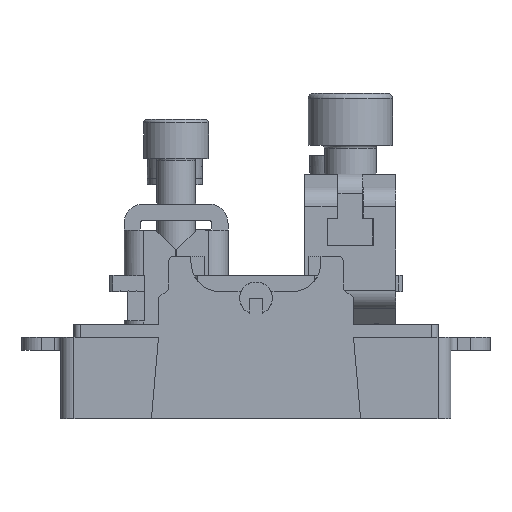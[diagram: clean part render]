
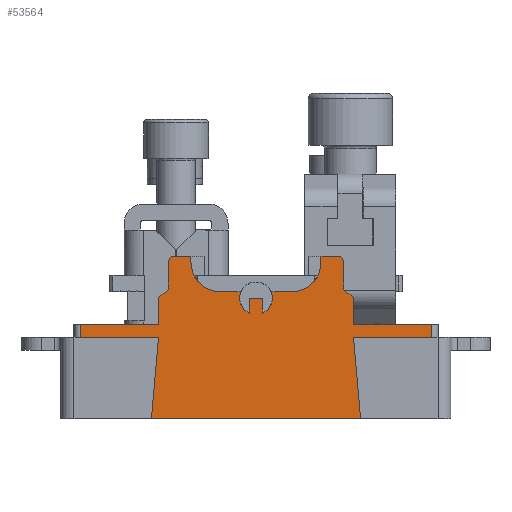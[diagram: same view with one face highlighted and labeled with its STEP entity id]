
A CAD part, front view. The second image highlights one B-rep face of the part: STEP entity #53564.
In plain terms, the highlighted planar face has unit normal (0, -1, 0).
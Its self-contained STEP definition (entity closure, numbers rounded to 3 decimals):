
#964=CIRCLE('',#55732,4.5);
#966=CIRCLE('',#55738,2.5);
#967=CIRCLE('',#55739,2.5);
#969=CIRCLE('',#55743,4.5);
#971=CIRCLE('',#55748,1.);
#972=CIRCLE('',#55751,7.5);
#976=CIRCLE('',#55765,1.);
#987=CIRCLE('',#55786,7.5);
#3449=ORIENTED_EDGE('',*,*,#14149,.F.);
#3450=ORIENTED_EDGE('',*,*,#14145,.T.);
#3451=ORIENTED_EDGE('',*,*,#14141,.F.);
#3452=ORIENTED_EDGE('',*,*,#14193,.F.);
#3453=ORIENTED_EDGE('',*,*,#14195,.T.);
#3454=ORIENTED_EDGE('',*,*,#14196,.T.);
#3455=ORIENTED_EDGE('',*,*,#14152,.T.);
#3456=ORIENTED_EDGE('',*,*,#14137,.F.);
#3457=ORIENTED_EDGE('',*,*,#14135,.F.);
#3458=ORIENTED_EDGE('',*,*,#14132,.T.);
#3459=ORIENTED_EDGE('',*,*,#14130,.T.);
#3460=ORIENTED_EDGE('',*,*,#14129,.F.);
#3461=ORIENTED_EDGE('',*,*,#14126,.T.);
#3462=ORIENTED_EDGE('',*,*,#14124,.T.);
#3463=ORIENTED_EDGE('',*,*,#14121,.T.);
#3464=ORIENTED_EDGE('',*,*,#14119,.F.);
#3465=ORIENTED_EDGE('',*,*,#14117,.F.);
#3466=ORIENTED_EDGE('',*,*,#14115,.T.);
#3467=ORIENTED_EDGE('',*,*,#14113,.F.);
#3468=ORIENTED_EDGE('',*,*,#13360,.T.);
#3469=ORIENTED_EDGE('',*,*,#14110,.T.);
#3470=ORIENTED_EDGE('',*,*,#13348,.T.);
#3471=ORIENTED_EDGE('',*,*,#14107,.F.);
#3472=ORIENTED_EDGE('',*,*,#14104,.F.);
#3473=ORIENTED_EDGE('',*,*,#14102,.F.);
#3474=ORIENTED_EDGE('',*,*,#14100,.F.);
#3475=ORIENTED_EDGE('',*,*,#14106,.F.);
#3476=ORIENTED_EDGE('',*,*,#13352,.T.);
#3477=ORIENTED_EDGE('',*,*,#14097,.T.);
#3478=ORIENTED_EDGE('',*,*,#13340,.F.);
#13340=EDGE_CURVE('',#19097,#19098,#22948,.T.);
#13348=EDGE_CURVE('',#19103,#19105,#22956,.T.);
#13352=EDGE_CURVE('',#19107,#19109,#22960,.T.);
#13360=EDGE_CURVE('',#19116,#19115,#22968,.T.);
#14097=EDGE_CURVE('',#19109,#19098,#964,.T.);
#14100=EDGE_CURVE('',#19621,#19622,#23526,.T.);
#14102=EDGE_CURVE('',#19622,#19623,#23528,.T.);
#14104=EDGE_CURVE('',#19623,#19624,#23530,.T.);
#14106=EDGE_CURVE('',#19107,#19621,#966,.T.);
#14107=EDGE_CURVE('',#19624,#19105,#967,.T.);
#14110=EDGE_CURVE('',#19115,#19103,#969,.T.);
#14113=EDGE_CURVE('',#19116,#19625,#23534,.T.);
#14115=EDGE_CURVE('',#19626,#19625,#971,.T.);
#14117=EDGE_CURVE('',#19626,#19627,#23537,.T.);
#14119=EDGE_CURVE('',#19627,#19628,#972,.T.);
#14121=EDGE_CURVE('',#19629,#19628,#23540,.T.);
#14124=EDGE_CURVE('',#19630,#19629,#23543,.T.);
#14126=EDGE_CURVE('',#19631,#19630,#23544,.F.);
#14129=EDGE_CURVE('',#19631,#19632,#23546,.T.);
#14130=EDGE_CURVE('',#19633,#19632,#23547,.F.);
#14132=EDGE_CURVE('',#19634,#19633,#23549,.T.);
#14135=EDGE_CURVE('',#19634,#19635,#23552,.F.);
#14137=EDGE_CURVE('',#19635,#19636,#23554,.T.);
#14141=EDGE_CURVE('',#19639,#19640,#23557,.T.);
#14145=EDGE_CURVE('',#19643,#19640,#976,.T.);
#14149=EDGE_CURVE('',#19643,#19097,#23563,.T.);
#14152=EDGE_CURVE('',#19646,#19636,#23565,.T.);
#14193=EDGE_CURVE('',#19676,#19639,#987,.T.);
#14195=EDGE_CURVE('',#19676,#19677,#23595,.T.);
#14196=EDGE_CURVE('',#19677,#19646,#23596,.T.);
#19097=VERTEX_POINT('',#69006);
#19098=VERTEX_POINT('',#69008);
#19103=VERTEX_POINT('',#69019);
#19105=VERTEX_POINT('',#69023);
#19107=VERTEX_POINT('',#69028);
#19109=VERTEX_POINT('',#69032);
#19115=VERTEX_POINT('',#69048);
#19116=VERTEX_POINT('',#69050);
#19621=VERTEX_POINT('',#72132);
#19622=VERTEX_POINT('',#72134);
#19623=VERTEX_POINT('',#72138);
#19624=VERTEX_POINT('',#72142);
#19625=VERTEX_POINT('',#72157);
#19626=VERTEX_POINT('',#72161);
#19627=VERTEX_POINT('',#72165);
#19628=VERTEX_POINT('',#72169);
#19629=VERTEX_POINT('',#72173);
#19630=VERTEX_POINT('',#72178);
#19631=VERTEX_POINT('',#72182);
#19632=VERTEX_POINT('',#72186);
#19633=VERTEX_POINT('',#72190);
#19634=VERTEX_POINT('',#72194);
#19635=VERTEX_POINT('',#72199);
#19636=VERTEX_POINT('',#72203);
#19639=VERTEX_POINT('',#72211);
#19640=VERTEX_POINT('',#72212);
#19643=VERTEX_POINT('',#72220);
#19646=VERTEX_POINT('',#72230);
#19676=VERTEX_POINT('',#72442);
#19677=VERTEX_POINT('',#72446);
#22948=LINE('',#69007,#27512);
#22956=LINE('',#69024,#27520);
#22960=LINE('',#69033,#27524);
#22968=LINE('',#69049,#27532);
#23526=LINE('',#72133,#28090);
#23528=LINE('',#72137,#28092);
#23530=LINE('',#72141,#28094);
#23534=LINE('',#72156,#28098);
#23537=LINE('',#72164,#28101);
#23540=LINE('',#72172,#28104);
#23543=LINE('',#72177,#28107);
#23544=LINE('',#72181,#28108);
#23546=LINE('',#72187,#28110);
#23547=LINE('',#72189,#28111);
#23549=LINE('',#72193,#28113);
#23552=LINE('',#72198,#28116);
#23554=LINE('',#72202,#28118);
#23557=LINE('',#72210,#28121);
#23563=LINE('',#72226,#28127);
#23565=LINE('',#72232,#28129);
#23595=LINE('',#72445,#28159);
#23596=LINE('',#72447,#28160);
#27512=VECTOR('',#58407,1000.);
#27520=VECTOR('',#58417,1000.);
#27524=VECTOR('',#58423,1000.);
#27532=VECTOR('',#58435,1000.);
#28090=VECTOR('',#59727,1000.);
#28092=VECTOR('',#59731,1000.);
#28094=VECTOR('',#59735,1000.);
#28098=VECTOR('',#59759,1000.);
#28101=VECTOR('',#59768,1000.);
#28104=VECTOR('',#59777,1000.);
#28107=VECTOR('',#59782,1000.);
#28108=VECTOR('',#59787,1000.);
#28110=VECTOR('',#59793,1000.);
#28111=VECTOR('',#59796,1000.);
#28113=VECTOR('',#59800,1000.);
#28116=VECTOR('',#59805,1000.);
#28118=VECTOR('',#59809,1000.);
#28121=VECTOR('',#59816,1000.);
#28127=VECTOR('',#59830,1000.);
#28129=VECTOR('',#59836,1000.);
#28159=VECTOR('',#59902,1000.);
#28160=VECTOR('',#59903,1000.);
#32412=EDGE_LOOP('',(#3449,#3450,#3451,#3452,#3453,#3454,#3455,#3456,#3457,
#3458,#3459,#3460,#3461,#3462,#3463,#3464,#3465,#3466,#3467,#3468,#3469,
#3470,#3471,#3472,#3473,#3474,#3475,#3476,#3477,#3478));
#34870=FACE_BOUND('',#32412,.T.);
#37194=PLANE('',#55787);
#53564=ADVANCED_FACE('',(#34870),#37194,.T.);
#55732=AXIS2_PLACEMENT_3D('',#72128,#59720,#59721);
#55738=AXIS2_PLACEMENT_3D('',#72145,#59739,#59740);
#55739=AXIS2_PLACEMENT_3D('',#72146,#59741,#59742);
#55743=AXIS2_PLACEMENT_3D('',#72151,#59750,#59751);
#55748=AXIS2_PLACEMENT_3D('',#72160,#59763,#59764);
#55751=AXIS2_PLACEMENT_3D('',#72168,#59772,#59773);
#55765=AXIS2_PLACEMENT_3D('',#72219,#59822,#59823);
#55786=AXIS2_PLACEMENT_3D('',#72441,#59897,#59898);
#55787=AXIS2_PLACEMENT_3D('',#72444,#59900,#59901);
#58407=DIRECTION('',(0.,0.,-1.));
#58417=DIRECTION('',(-1.,0.,0.));
#58423=DIRECTION('',(-1.,0.,0.));
#58435=DIRECTION('',(0.,0.,-1.));
#59720=DIRECTION('',(0.,1.,0.));
#59721=DIRECTION('',(1.,0.,0.));
#59727=DIRECTION('',(0.,0.,1.));
#59731=DIRECTION('',(1.,0.,0.));
#59735=DIRECTION('',(0.,0.,-1.));
#59739=DIRECTION('',(0.,-1.,0.));
#59740=DIRECTION('',(1.,0.,0.));
#59741=DIRECTION('',(0.,-1.,0.));
#59742=DIRECTION('',(1.,0.,0.));
#59750=DIRECTION('',(0.,1.,0.));
#59751=DIRECTION('',(1.,0.,0.));
#59759=DIRECTION('',(1.,0.,0.));
#59763=DIRECTION('',(0.,-1.,0.));
#59764=DIRECTION('',(1.,0.,0.));
#59768=DIRECTION('',(0.,0.,-1.));
#59772=DIRECTION('',(0.,-1.,0.));
#59773=DIRECTION('',(1.,0.,0.));
#59777=DIRECTION('',(0.,0.,1.));
#59782=DIRECTION('',(-1.,0.,0.));
#59787=DIRECTION('',(0.,0.,-1.));
#59793=DIRECTION('',(-1.,0.,0.));
#59796=DIRECTION('',(0.087,0.,-0.996));
#59800=DIRECTION('',(1.,0.,0.));
#59805=DIRECTION('',(-0.087,0.,-0.996));
#59809=DIRECTION('',(-1.,0.,0.));
#59816=DIRECTION('',(0.,0.,1.));
#59822=DIRECTION('',(0.,-1.,0.));
#59823=DIRECTION('',(1.,0.,0.));
#59830=DIRECTION('',(1.,0.,0.));
#59836=DIRECTION('',(0.,0.,-1.));
#59897=DIRECTION('',(0.,-1.,0.));
#59898=DIRECTION('',(1.,0.,0.));
#59900=DIRECTION('',(0.,-1.,0.));
#59901=DIRECTION('',(1.,0.,0.));
#59902=DIRECTION('',(0.,0.,-1.));
#59903=DIRECTION('',(-1.,0.,0.));
#69006=CARTESIAN_POINT('',(-10.,-60.5,5.5));
#69007=CARTESIAN_POINT('',(-10.,-60.5,5.5));
#69008=CARTESIAN_POINT('',(-10.,-60.5,4.5));
#69019=CARTESIAN_POINT('',(5.5,-60.5,0.));
#69023=CARTESIAN_POINT('',(2.291,-60.5,0.));
#69024=CARTESIAN_POINT('',(2.291,-60.5,0.));
#69028=CARTESIAN_POINT('',(-2.291,-60.5,0.));
#69032=CARTESIAN_POINT('',(-5.5,-60.5,0.));
#69033=CARTESIAN_POINT('',(-5.5,-60.5,0.));
#69048=CARTESIAN_POINT('',(10.,-60.5,4.5));
#69049=CARTESIAN_POINT('',(10.,-60.5,5.5));
#69050=CARTESIAN_POINT('',(10.,-60.5,5.5));
#72128=CARTESIAN_POINT('',(-5.5,-60.5,4.5));
#72132=CARTESIAN_POINT('',(-1.,-60.5,-3.291));
#72133=CARTESIAN_POINT('',(-1.,-60.5,-1.));
#72134=CARTESIAN_POINT('',(-1.,-60.5,-1.));
#72137=CARTESIAN_POINT('',(-1.,-60.5,-1.));
#72138=CARTESIAN_POINT('',(1.,-60.5,-1.));
#72141=CARTESIAN_POINT('',(1.,-60.5,-1.));
#72142=CARTESIAN_POINT('',(1.,-60.5,-3.291));
#72145=CARTESIAN_POINT('',(0.,-60.5,-1.));
#72146=CARTESIAN_POINT('',(0.,-60.5,-1.));
#72151=CARTESIAN_POINT('',(5.5,-60.5,4.5));
#72156=CARTESIAN_POINT('',(10.,-60.5,5.5));
#72157=CARTESIAN_POINT('',(12.5,-60.5,5.5));
#72160=CARTESIAN_POINT('',(12.5,-60.5,4.5));
#72161=CARTESIAN_POINT('',(13.5,-60.5,4.5));
#72164=CARTESIAN_POINT('',(13.5,-60.5,5.5));
#72165=CARTESIAN_POINT('',(13.5,-60.5,0.401));
#72168=CARTESIAN_POINT('',(19.,-60.5,5.5));
#72169=CARTESIAN_POINT('',(15.,-60.5,-0.844));
#72172=CARTESIAN_POINT('',(15.,-60.5,-7.));
#72173=CARTESIAN_POINT('',(15.,-60.5,-5.));
#72177=CARTESIAN_POINT('',(28.,-60.5,-5.));
#72178=CARTESIAN_POINT('',(27.,-60.5,-5.));
#72181=CARTESIAN_POINT('',(27.,-60.5,-5.));
#72182=CARTESIAN_POINT('',(27.,-60.5,-7.));
#72186=CARTESIAN_POINT('',(15.,-60.5,-7.));
#72187=CARTESIAN_POINT('',(-15.,-60.5,-7.));
#72189=CARTESIAN_POINT('',(14.598,-60.5,-2.41));
#72190=CARTESIAN_POINT('',(16.094,-60.5,-19.5));
#72193=CARTESIAN_POINT('',(-30.,-60.5,-19.5));
#72194=CARTESIAN_POINT('',(-16.094,-60.5,-19.5));
#72198=CARTESIAN_POINT('',(-15.,-60.5,-7.));
#72199=CARTESIAN_POINT('',(-15.,-60.5,-7.));
#72202=CARTESIAN_POINT('',(-15.,-60.5,-7.));
#72203=CARTESIAN_POINT('',(-27.,-60.5,-7.));
#72210=CARTESIAN_POINT('',(-13.5,-60.5,5.5));
#72211=CARTESIAN_POINT('',(-13.5,-60.5,0.401));
#72212=CARTESIAN_POINT('',(-13.5,-60.5,4.5));
#72219=CARTESIAN_POINT('',(-12.5,-60.5,4.5));
#72220=CARTESIAN_POINT('',(-12.5,-60.5,5.5));
#72226=CARTESIAN_POINT('',(-15.,-60.5,5.5));
#72230=CARTESIAN_POINT('',(-27.,-60.5,-5.));
#72232=CARTESIAN_POINT('',(-27.,-60.5,-5.));
#72441=CARTESIAN_POINT('',(-19.,-60.5,5.5));
#72442=CARTESIAN_POINT('',(-15.,-60.5,-0.844));
#72444=CARTESIAN_POINT('',(-15.,-60.5,-5.));
#72445=CARTESIAN_POINT('',(-15.,-60.5,-3.));
#72446=CARTESIAN_POINT('',(-15.,-60.5,-5.));
#72447=CARTESIAN_POINT('',(-15.,-60.5,-5.));
